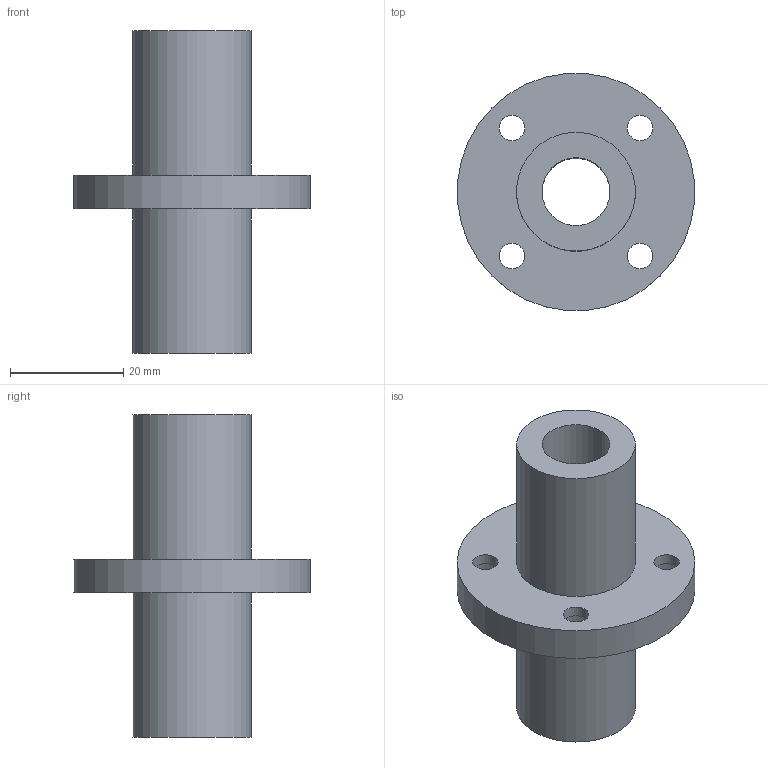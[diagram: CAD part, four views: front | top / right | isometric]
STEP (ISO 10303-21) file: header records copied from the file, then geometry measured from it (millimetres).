
FILE_DESCRIPTION(/* description */ (''),/* implementation_level */ '2;1');
FILE_NAME(/* name */ 'LMFM12LUU',/* time_stamp */ '2019-07-03T11:00:41+02:00',/* author */ ('VĂ©gh MĂˇtĂ©'),/* organization */ ('Bearing Kft'),/* preprocessor_version */ 'ST-DEVELOPER v16.7',/* originating_system */ 'DEX',/* authorisation */ $);
FILE_SCHEMA (('AUTOMOTIVE_DESIGN {1 0 10303 214 3 1 1}'));
Length unit declared in the file: millimetre
Products named in the file (1): LMFM12LUU
Bounding box: 41.84 x 41.84 x 57 mm (x, y, z)
Volume: 18683.5 mm3; surface area: 9232.6 mm2
Topology: 1 solids, 1 shells, 342 faces, 865 edges, 578 vertices
Faces by surface type: plane 269, bspline 58, cylinder 15
Full cylindrical faces by diameter (mm): 4.5 x4, 7.5 x4, 12 x1, 21 x2, 42 x1
Entity records: 12716 total; most frequent: CARTESIAN_POINT 4847, ORIENTED_EDGE 1696, DIRECTION 1332, EDGE_CURVE 848, LINE 702, VECTOR 702, VERTEX_POINT 574, EDGE_LOOP 418
